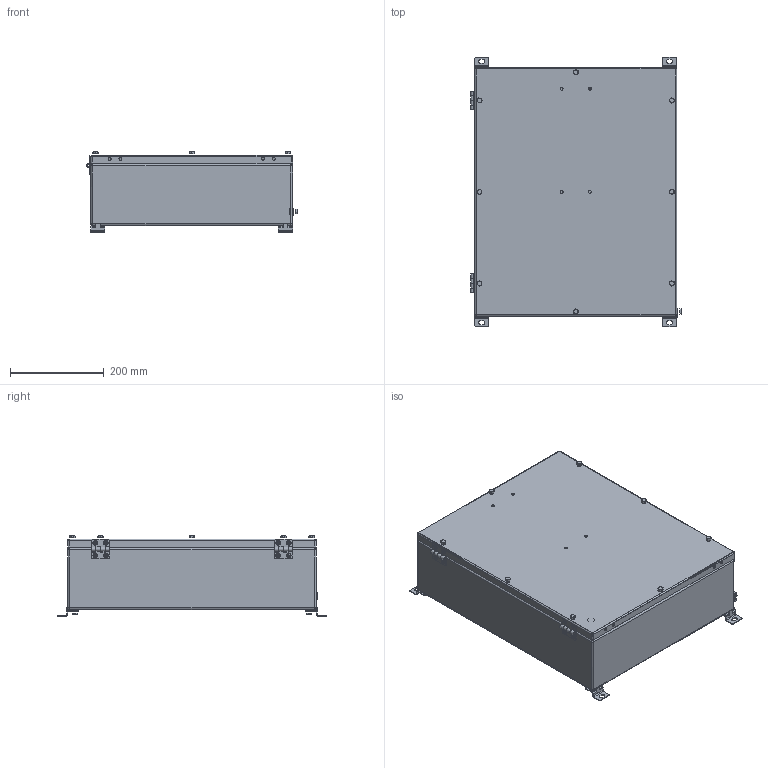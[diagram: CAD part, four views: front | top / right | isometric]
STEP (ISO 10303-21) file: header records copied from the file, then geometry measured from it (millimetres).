
FILE_DESCRIPTION((''),'2;1');
FILE_NAME('\\192.168.5.25\cortem_klient\INVENTOR БАЗА МОДЕЛЕЙ\Актуальная база моделей для отдела продаж\КСРВ-Н\КСРВ-Н534315_М5.stp','2019-04-09T14:16:51',('A.S.Kozlov'),(''),'Autodesk Inventor 2012','Autodesk Inventor 2012','');
FILE_SCHEMA(('CONFIG_CONTROL_DESIGN'));
Length unit declared in the file: millimetre
Products named in the file (1): КСРВ-(параметрическая модель)_Внешний контур_1
Bounding box: 449.19 x 574 x 171.7 mm (x, y, z)
Surface area: 1097178 mm2 (no closed solid volume)
Topology: 0 solids, 67 shells, 250 faces, 1226 edges, 979 vertices
Faces by surface type: plane 168, cylinder 68, sphere 12, cone 2
Full cylindrical faces by diameter (mm): 5.9 x4, 6.1 x4, 9 x2, 10 x6
Entity records: 12581 total; most frequent: CARTESIAN_POINT 2627, DIRECTION 2001, ORIENTED_EDGE 1489, EDGE_CURVE 1193, VERTEX_POINT 967, VECTOR 671, LINE 671, AXIS2_PLACEMENT_3D 665
